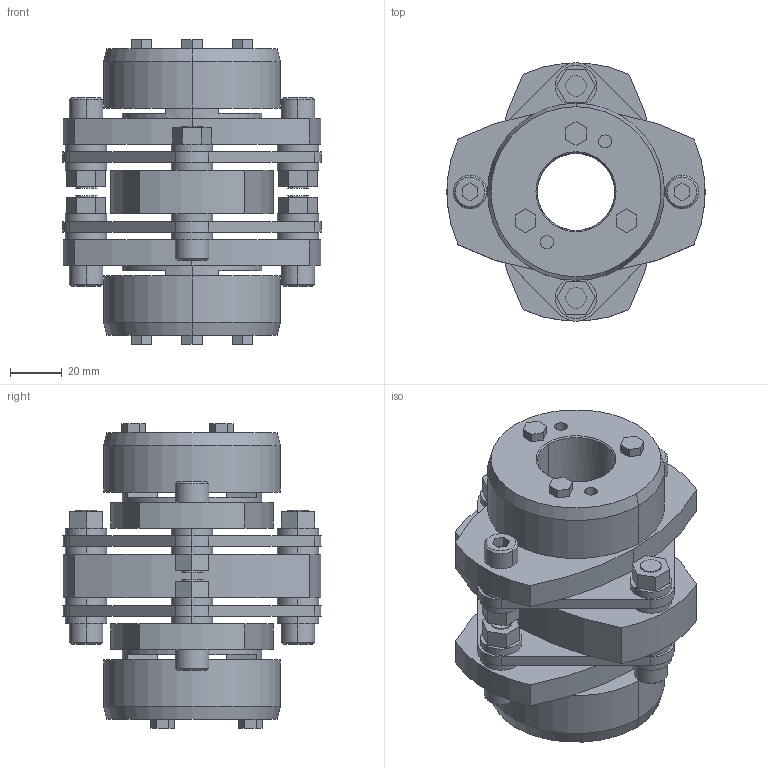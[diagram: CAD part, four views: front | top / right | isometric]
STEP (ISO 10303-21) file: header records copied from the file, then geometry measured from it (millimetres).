
FILE_DESCRIPTION((''),'2;1');
FILE_NAME('LCD-100T7-30×30.stp','2011-09-09T08:50:52',(''),(''),'AutoCAD STEP 2000i','AutoCAD 2000i',', , ');
FILE_SCHEMA(('CONFIG_CONTROL_DESIGN'));
Length unit declared in the file: millimetre
Products named in the file (8): LCD-100T7-30×30; 忣兜1; LC100T7-T030-1; LC100T7-T030; LC100T7-T025; LC100T7-T022-1; LC100T7-T022; LCD100-ITA
Assembly tree (7 placements, depth 2):
  LCD-100T7-30×30
    忣兜1
    LC100T7-T030-1
    LC100T7-T030
    LC100T7-T025
    LC100T7-T022-1
    LC100T7-T022
    LCD100-ITA
Bounding box: 100 x 99.93 x 118 mm (x, y, z)
Volume: 361217.4 mm3; surface area: 91283.5 mm2
Topology: 1 solids, 1 shells, 320 faces, 780 edges, 512 vertices
Faces by surface type: plane 176, cylinder 120, cone 24
Entity records: 9677 total; most frequent: DIRECTION 1716, CARTESIAN_POINT 1620, ORIENTED_EDGE 1560, EDGE_CURVE 780, AXIS2_PLACEMENT_3D 608, VERTEX_POINT 512, VECTOR 500, LINE 500
